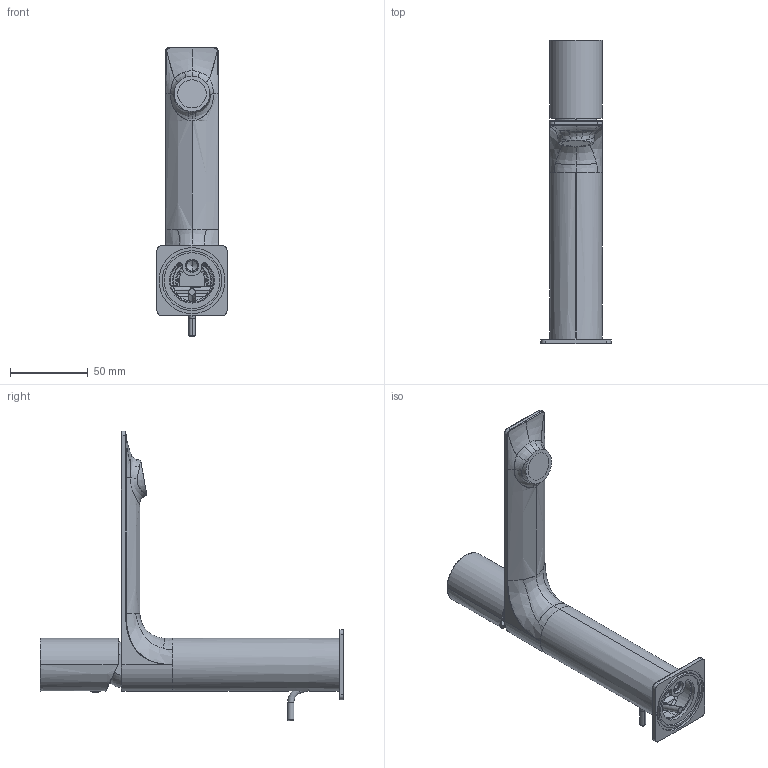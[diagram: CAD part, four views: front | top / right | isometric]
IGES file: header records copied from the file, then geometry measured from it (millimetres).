
Start section:  PTC IGES file: 78054s_sw0001.igs
Global section: file name: 78054s_sw0001.igs; native system: Creo Parametric by PTC Inc.; preprocessor: 2018100; author: volponeff; organization: Unknown; date: 20200521.132520; units: millimetre
Bounding box: 45 x 195 x 186.14 mm (x, y, z)
Surface area: 66915.2 mm2 (no closed solid volume)
Topology: 0 solids, 0 shells, 412 faces, 1962 edges, 1943 vertices
Faces by surface type: revolution 227, bspline 181, extrusion 4
